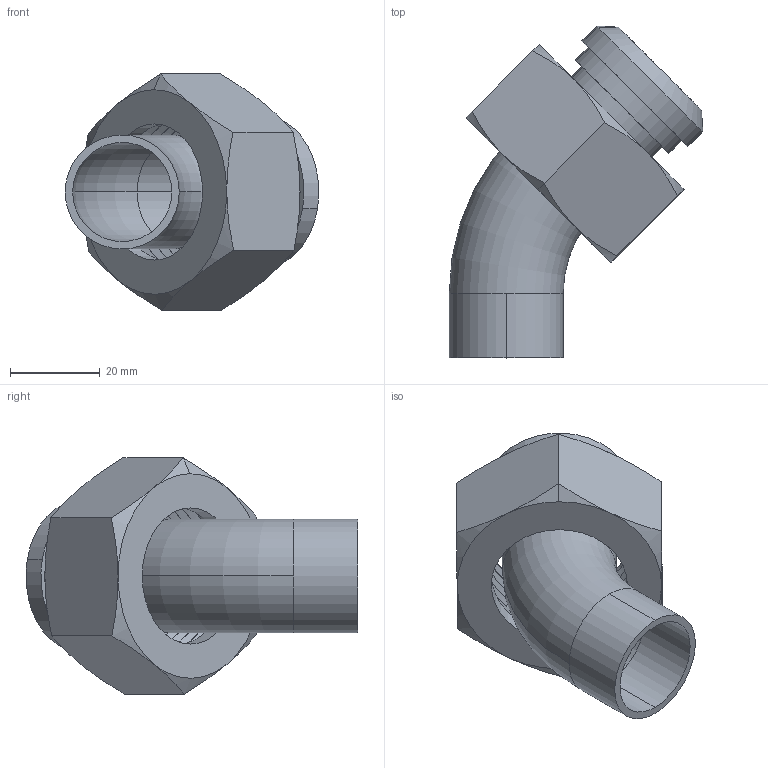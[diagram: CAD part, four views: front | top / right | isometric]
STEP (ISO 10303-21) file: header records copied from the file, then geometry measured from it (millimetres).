
FILE_DESCRIPTION (( 'STEP AP203' ), '1' );
FILE_NAME ('E2KP1.0.STEP', '2018-05-02T16:21:12', ( 'vneprd' ), ( 'Microsoft' ), 'SwSTEP 2.0', 'SolidWorks 2014', '' );
FILE_SCHEMA (( 'CONFIG_CONTROL_DESIGN' ));
Length unit declared in the file: inch
Products named in the file (4): 14PR1.0; 13H1.0; E2KP1.0; E2KS1.0
Assembly tree (3 placements, depth 2):
  E2KP1.0
    E2KS1.0
    14PR1.0
    13H1.0
Bounding box: 56.5 x 73.95 x 52.64 mm (x, y, z)
Volume: 30956.7 mm3; surface area: 22299.5 mm2
Topology: 3 solids, 3 shells, 68 faces, 157 edges, 98 vertices
Faces by surface type: cylinder 28, plane 17, cone 16, torus 4, bspline 3
Entity records: 3504 total; most frequent: CARTESIAN_POINT 1608, ORIENTED_EDGE 314, DIRECTION 313, EDGE_CURVE 157, AXIS2_PLACEMENT_3D 135, VERTEX_POINT 98, EDGE_LOOP 77, ADVANCED_FACE 68
